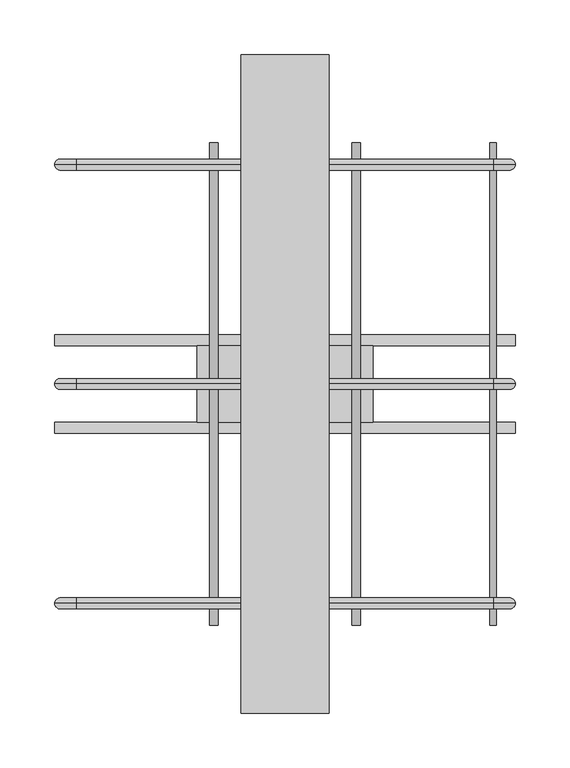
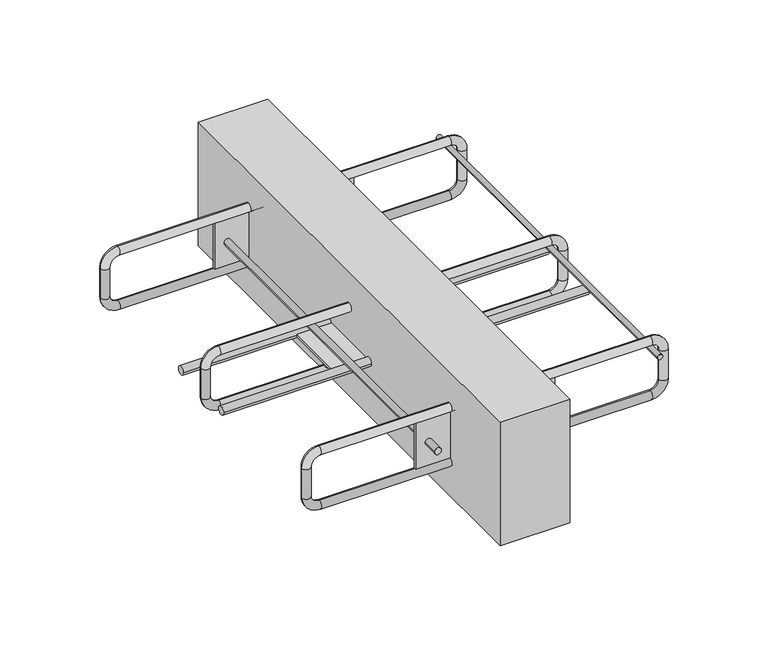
"""IFC4 building model written with IfcOpenShell, lengths in millimetres: fastener geometry, ACINOXplus_Typenreihe_UL-OL : OL+ S1."""

from ifc_helpers import new_model, si_unit, point, frame, frame_2d, origin, place, context, project, spatial, polyline, circle_curve, ellipse_curve, trimmed, segment, composite_curve, outline, extrude, source, transform, mapped, element, save
from ifc_brep_helpers import cylinder_surface, revolved_surface, advanced_brep


def fastener_a5130629(model_context):
    return source(origin(), model_context, "Body", "SolidModel", [
        extrude(outline(composite_curve([segment(trimmed(circle_curve(frame_2d((-50.0, 190.0)), 3.0), [point((-50.0, 193.0))], [point((-50.0, 187.0))], False, "CARTESIAN"), True, "CONTINUOUS"), segment(trimmed(circle_curve(frame_2d((-50.0, 190.0)), 3.0), [point((-50.0, 187.0))], [point((-50.0, 193.0))], False, "CARTESIAN"), True, "CONTINUOUS")], self_intersect=False)), frame((0.0, -220.0, 0.0), z_axis=(0.0, 1.0, 0.0), x_axis=(0.0, 0.0, 1.0)), (0.0, 0.0, 1.0), 440.0),
        extrude(outline(polyline([(40.0, 300.0), (40.0, -300.0), (-40.0, -300.0), (-40.0, 300.0), (40.0, 300.0)])), frame((0.0, 0.0, -150.0), z_axis=(0.0, 0.0, 1.0), x_axis=(1.0, 0.0, 0.0)), (0.0, 0.0, 1.0), 150.0),
        extrude(outline(composite_curve([segment(trimmed(circle_curve(frame_2d((-40.0, -84.0)), 5.0), [point((-45.0, -84.0))], [point((-35.0, -84.0))], False, "CARTESIAN"), True, "CONTINUOUS"), segment(trimmed(circle_curve(frame_2d((-40.0, -84.0)), 5.0), [point((-35.0, -84.0))], [point((-45.0, -84.0))], False, "CARTESIAN"), True, "CONTINUOUS")], self_intersect=False)), frame((-210.0, 0.0, 0.0), z_axis=(1.0, 0.0, 0.0), x_axis=(0.0, 1.0, 0.0)), (0.0, 0.0, 1.0), 420.0),
        extrude(outline(composite_curve([segment(trimmed(circle_curve(frame_2d((40.0, -84.0)), 5.0), [point((35.0, -84.0))], [point((45.0, -84.0))], False, "CARTESIAN"), True, "CONTINUOUS"), segment(trimmed(circle_curve(frame_2d((40.0, -84.0)), 5.0), [point((45.0, -84.0))], [point((35.0, -84.0))], False, "CARTESIAN"), True, "CONTINUOUS")], self_intersect=False)), frame((-210.0, 0.0, 0.0), z_axis=(1.0, 0.0, 0.0), x_axis=(0.0, 1.0, 0.0)), (0.0, 0.0, 1.0), 420.0),
        extrude(outline(composite_curve([segment(trimmed(circle_curve(frame_2d((-65.0, 0.0)), 4.0), [point((-69.0, 0.0))], [point((-61.0, 0.0))], False, "CARTESIAN"), True, "CONTINUOUS"), segment(trimmed(circle_curve(frame_2d((-65.0, 0.0)), 4.0), [point((-61.0, 0.0))], [point((-69.0, 0.0))], False, "CARTESIAN"), True, "CONTINUOUS")], self_intersect=False)), frame((0.0, 0.0, -112.0), z_axis=(0.0, 0.0, 1.0), x_axis=(1.0, 0.0, 0.0)), (0.0, 0.0, 1.0), 26.5),
        extrude(outline(composite_curve([segment(trimmed(circle_curve(frame_2d((65.0, 0.0)), 4.0), [point((61.0, 0.0))], [point((69.0, 0.0))], False, "CARTESIAN"), True, "CONTINUOUS"), segment(trimmed(circle_curve(frame_2d((65.0, 0.0)), 4.0), [point((69.0, 0.0))], [point((61.0, 0.0))], False, "CARTESIAN"), True, "CONTINUOUS")], self_intersect=False)), frame((0.0, 0.0, -112.0), z_axis=(0.0, 0.0, 1.0), x_axis=(1.0, 0.0, 0.0)), (0.0, 0.0, 1.0), 26.5),
        extrude(outline(polyline([(80.0, 35.0), (80.0, -35.0), (-80.0, -35.0), (-80.0, 35.0), (80.0, 35.0)])), frame((0.0, 0.0, -85.5), z_axis=(0.0, 0.0, 1.0), x_axis=(1.0, 0.0, 0.0)), (0.0, 0.0, 1.0), 3.0),
        extrude(outline(composite_curve([segment(trimmed(circle_curve(frame_2d((-75.0, -65.0)), 4.0), [point((-75.0, -61.0))], [point((-75.0, -69.0))], False, "CARTESIAN"), True, "CONTINUOUS"), segment(trimmed(circle_curve(frame_2d((-75.0, -65.0)), 4.0), [point((-75.0, -69.0))], [point((-75.0, -61.0))], False, "CARTESIAN"), True, "CONTINUOUS")], self_intersect=False)), frame((0.0, -220.0, 0.0), z_axis=(0.0, 1.0, 0.0), x_axis=(0.0, 0.0, 1.0)), (0.0, 0.0, 1.0), 440.0),
        extrude(outline(composite_curve([segment(trimmed(circle_curve(frame_2d((-75.0, 65.0)), 4.0), [point((-75.0, 69.0))], [point((-75.0, 61.0))], False, "CARTESIAN"), True, "CONTINUOUS"), segment(trimmed(circle_curve(frame_2d((-75.0, 65.0)), 4.0), [point((-75.0, 61.0))], [point((-75.0, 69.0))], False, "CARTESIAN"), True, "CONTINUOUS")], self_intersect=False)), frame((0.0, -220.0, 0.0), z_axis=(0.0, 1.0, 0.0), x_axis=(0.0, 0.0, 1.0)), (0.0, 0.0, 1.0), 440.0),
        extrude(outline(polyline([(80.0, -198.5), (80.0, -201.5), (-80.0, -201.5), (-80.0, -198.5), (80.0, -198.5)])), frame((0.0, 0.0, -103.0), z_axis=(0.0, 0.0, 1.0), x_axis=(1.0, 0.0, 0.0)), (0.0, 0.0, 1.0), 56.0),
        extrude(outline(polyline([(80.0, 201.5), (80.0, 198.5), (-80.0, 198.5), (-80.0, 201.5), (80.0, 201.5)])), frame((0.0, 0.0, -103.0), z_axis=(0.0, 0.0, 1.0), x_axis=(1.0, 0.0, 0.0)), (0.0, 0.0, 1.0), 56.0),
        advanced_brep(
        [(190.0, 0.0, -47.0), (190.0, 0.0, -37.0), (-190.0, 0.0, -37.0), (-190.0, 0.0, -47.0), (-200.0, 0.0, -57.0), (-210.0, 0.0, -57.0), (-210.0, 0.0, -93.0), (-200.0, 0.0, -93.0), (-190.0, 0.0, -103.0), (-190.0, 0.0, -113.0), (190.0, 0.0, -113.0), (190.0, 0.0, -103.0), (200.0, 0.0, -93.0), (210.0, 0.0, -93.0), (210.0, 0.0, -57.0), (200.0, 0.0, -57.0)],
        [
            (0, 1, circle_curve(frame((190.0, 0.0, -42.0), z_axis=(-1.0, 0.0, 0.0), x_axis=(0.0, 0.0, -1.0)), 5.0)),
            (1, 2),
            (2, 3, circle_curve(frame((-190.0, 0.0, -42.0), z_axis=(1.0, 0.0, 0.0), x_axis=(0.0, 0.0, -1.0)), 5.0)),
            (3, 0),
            (1, 0, circle_curve(frame((190.0, 0.0, -42.0), z_axis=(-1.0, 0.0, 0.0), x_axis=(0.0, 0.0, -1.0)), 5.0)),
            (3, 2, circle_curve(frame((-190.0, 0.0, -42.0), z_axis=(1.0, 0.0, 0.0), x_axis=(0.0, 0.0, -1.0)), 5.0)),
            (4, 3, circle_curve(frame((-190.0, 0.0, -57.0), z_axis=(0.0, 1.0, 0.0), x_axis=(0.0, 0.0, 1.0)), 10.0)),
            (2, 5, circle_curve(frame((-190.0, 0.0, -57.0), z_axis=(0.0, -1.0, 0.0), x_axis=(0.0, 0.0, 1.0)), 20.0)),
            (5, 4, circle_curve(frame((-205.0, 0.0, -57.0), z_axis=(0.0, 0.0, 1.0), x_axis=(1.0, 0.0, 0.0)), 5.0)),
            (4, 5, circle_curve(frame((-205.0, 0.0, -57.0), z_axis=(0.0, 0.0, 1.0), x_axis=(1.0, 0.0, 0.0)), 5.0)),
            (5, 6),
            (6, 7, circle_curve(frame((-205.0, 0.0, -93.0), z_axis=(0.0, 0.0, 1.0), x_axis=(1.0, 0.0, 0.0)), 5.0)),
            (7, 4),
            (7, 6, circle_curve(frame((-205.0, 0.0, -93.0), z_axis=(0.0, 0.0, 1.0), x_axis=(1.0, 0.0, 0.0)), 5.0)),
            (8, 7, circle_curve(frame((-190.0, 0.0, -93.0), z_axis=(0.0, 1.0, 0.0), x_axis=(-1.0, 0.0, 0.0)), 10.0)),
            (6, 9, circle_curve(frame((-190.0, 0.0, -93.0), z_axis=(0.0, -1.0, 0.0), x_axis=(-1.0, 0.0, 0.0)), 20.0)),
            (9, 8, circle_curve(frame((-190.0, 0.0, -108.0), z_axis=(-1.0, 0.0, 0.0), x_axis=(0.0, 0.0, 1.0)), 5.0)),
            (8, 9, circle_curve(frame((-190.0, 0.0, -108.0), z_axis=(-1.0, 0.0, 0.0), x_axis=(0.0, 0.0, 1.0)), 5.0)),
            (9, 10),
            (10, 11, circle_curve(frame((190.0, 0.0, -108.0), z_axis=(-1.0, 0.0, 0.0), x_axis=(0.0, 0.0, 1.0)), 5.0)),
            (11, 8),
            (11, 10, circle_curve(frame((190.0, 0.0, -108.0), z_axis=(-1.0, 0.0, 0.0), x_axis=(0.0, 0.0, 1.0)), 5.0)),
            (12, 11, circle_curve(frame((190.0, 0.0, -93.0), z_axis=(0.0, 1.0, 0.0), x_axis=(0.0, 0.0, -1.0)), 10.0)),
            (10, 13, circle_curve(frame((190.0, 0.0, -93.0), z_axis=(0.0, -1.0, 0.0), x_axis=(0.0, 0.0, -1.0)), 20.0)),
            (13, 12, circle_curve(frame((205.0, 0.0, -93.0), z_axis=(0.0, 0.0, -1.0), x_axis=(-1.0, 0.0, 0.0)), 5.0)),
            (12, 13, circle_curve(frame((205.0, 0.0, -93.0), z_axis=(0.0, 0.0, -1.0), x_axis=(-1.0, 0.0, 0.0)), 5.0)),
            (13, 14),
            (14, 15, circle_curve(frame((205.0, 0.0, -57.0), z_axis=(0.0, 0.0, -1.0), x_axis=(-1.0, 0.0, 0.0)), 5.0)),
            (15, 12),
            (15, 14, circle_curve(frame((205.0, 0.0, -57.0), z_axis=(0.0, 0.0, -1.0), x_axis=(-1.0, 0.0, 0.0)), 5.0)),
            (0, 15, circle_curve(frame((190.0, 0.0, -57.0), z_axis=(0.0, 1.0, 0.0), x_axis=(1.0, 0.0, 0.0)), 10.0)),
            (14, 1, circle_curve(frame((190.0, 0.0, -57.0), z_axis=(0.0, -1.0, 0.0), x_axis=(1.0, 0.0, 0.0)), 20.0)),
        ],
        [
            cylinder_surface(frame((190.0, 0.0, -42.0), z_axis=(1.0, 0.0, 0.0), x_axis=(0.0, 0.0, -1.0)), 5.0),
            revolved_surface(trimmed(ellipse_curve(frame((-190.0, 0.0, -42.0), z_axis=(1.0, 0.0, 0.0), x_axis=(0.0, 0.0, -1.0)), 5.0, 5.0), [point((-190.0, 0.0, -37.0))], [point((-190.0, 0.0, -47.0))], True, "CARTESIAN"), (-190.0, 0.0, -57.0), (0.0, -1.0, 0.0)),
            revolved_surface(trimmed(ellipse_curve(frame((-190.0, 0.0, -42.0), z_axis=(1.0, 0.0, 0.0), x_axis=(0.0, 0.0, -1.0)), 5.0, 5.0), [point((-190.0, 0.0, -47.0))], [point((-190.0, 0.0, -37.0))], True, "CARTESIAN"), (-190.0, 0.0, -57.0), (0.0, -1.0, 0.0)),
            cylinder_surface(frame((-205.0, 0.0, -57.0), z_axis=(0.0, 0.0, 1.0), x_axis=(1.0, 0.0, 0.0)), 5.0),
            revolved_surface(trimmed(ellipse_curve(frame((-205.0, 0.0, -93.0), z_axis=(0.0, 0.0, 1.0), x_axis=(1.0, 0.0, 0.0)), 5.0, 5.0), [point((-210.0, 0.0, -93.0))], [point((-200.0, 0.0, -93.0))], True, "CARTESIAN"), (-190.0, 0.0, -93.0), (0.0, -1.0, 0.0)),
            revolved_surface(trimmed(ellipse_curve(frame((-205.0, 0.0, -93.0), z_axis=(0.0, 0.0, 1.0), x_axis=(1.0, 0.0, 0.0)), 5.0, 5.0), [point((-200.0, 0.0, -93.0))], [point((-210.0, 0.0, -93.0))], True, "CARTESIAN"), (-190.0, 0.0, -93.0), (0.0, -1.0, 0.0)),
            cylinder_surface(frame((-190.0, 0.0, -108.0), z_axis=(-1.0, 0.0, 0.0), x_axis=(0.0, 0.0, 1.0)), 5.0),
            revolved_surface(trimmed(ellipse_curve(frame((190.0, 0.0, -108.0), z_axis=(-1.0, 0.0, 0.0), x_axis=(0.0, 0.0, 1.0)), 5.0, 5.0), [point((190.0, 0.0, -113.0))], [point((190.0, 0.0, -103.0))], True, "CARTESIAN"), (190.0, 0.0, -93.0), (0.0, -1.0, 0.0)),
            revolved_surface(trimmed(ellipse_curve(frame((190.0, 0.0, -108.0), z_axis=(-1.0, 0.0, 0.0), x_axis=(0.0, 0.0, 1.0)), 5.0, 5.0), [point((190.0, 0.0, -103.0))], [point((190.0, 0.0, -113.0))], True, "CARTESIAN"), (190.0, 0.0, -93.0), (0.0, -1.0, 0.0)),
            cylinder_surface(frame((205.0, 0.0, -93.0), z_axis=(0.0, 0.0, -1.0), x_axis=(-1.0, 0.0, 0.0)), 5.0),
            revolved_surface(trimmed(ellipse_curve(frame((205.0, 0.0, -57.0), z_axis=(0.0, 0.0, -1.0), x_axis=(-1.0, 0.0, 0.0)), 5.0, 5.0), [point((210.0, 0.0, -57.0))], [point((200.0, 0.0, -57.0))], True, "CARTESIAN"), (190.0, 0.0, -57.0), (0.0, -1.0, 0.0)),
            revolved_surface(trimmed(ellipse_curve(frame((205.0, 0.0, -57.0), z_axis=(0.0, 0.0, -1.0), x_axis=(-1.0, 0.0, 0.0)), 5.0, 5.0), [point((200.0, 0.0, -57.0))], [point((210.0, 0.0, -57.0))], True, "CARTESIAN"), (190.0, 0.0, -57.0), (0.0, -1.0, 0.0)),
        ],
        [
            (0, [[1, 2, 3, 4]]),
            (0, [[5, -4, 6, -2]]),
            (1, [[7, -3, 8, 9]]),
            (2, [[-8, -6, -7, 10]]),
            (3, [[-9, 11, 12, 13]]),
            (3, [[-10, -13, 14, -11]]),
            (4, [[15, -12, 16, 17]]),
            (5, [[-16, -14, -15, 18]]),
            (6, [[-17, 19, 20, 21]]),
            (6, [[-18, -21, 22, -19]]),
            (7, [[23, -20, 24, 25]]),
            (8, [[-24, -22, -23, 26]]),
            (9, [[-25, 27, 28, 29]]),
            (9, [[-26, -29, 30, -27]]),
            (10, [[31, -28, 32, -1]]),
            (11, [[-32, -30, -31, -5]]),
        ],
    ),
        advanced_brep(
        [(190.0, 200.0, -47.0), (190.0, 200.0, -37.0), (-190.0, 200.0, -37.0), (-190.0, 200.0, -47.0), (-200.0, 200.0, -57.0), (-210.0, 200.0, -57.0), (-210.0, 200.0, -93.0), (-200.0, 200.0, -93.0), (-190.0, 200.0, -103.0), (-190.0, 200.0, -113.0), (190.0, 200.0, -113.0), (190.0, 200.0, -103.0), (200.0, 200.0, -93.0), (210.0, 200.0, -93.0), (210.0, 200.0, -57.0), (200.0, 200.0, -57.0)],
        [
            (0, 1, circle_curve(frame((190.0, 200.0, -42.0), z_axis=(-1.0, 0.0, 0.0), x_axis=(0.0, 0.0, -1.0)), 5.0)),
            (1, 2),
            (2, 3, circle_curve(frame((-190.0, 200.0, -42.0), z_axis=(1.0, 0.0, 0.0), x_axis=(0.0, 0.0, -1.0)), 5.0)),
            (3, 0),
            (1, 0, circle_curve(frame((190.0, 200.0, -42.0), z_axis=(-1.0, 0.0, 0.0), x_axis=(0.0, 0.0, -1.0)), 5.0)),
            (3, 2, circle_curve(frame((-190.0, 200.0, -42.0), z_axis=(1.0, 0.0, 0.0), x_axis=(0.0, 0.0, -1.0)), 5.0)),
            (4, 3, circle_curve(frame((-190.0, 200.0, -57.0), z_axis=(0.0, 1.0, 0.0), x_axis=(0.0, 0.0, 1.0)), 10.0)),
            (2, 5, circle_curve(frame((-190.0, 200.0, -57.0), z_axis=(0.0, -1.0, 0.0), x_axis=(0.0, 0.0, 1.0)), 20.0)),
            (5, 4, circle_curve(frame((-205.0, 200.0, -57.0), z_axis=(0.0, 0.0, 1.0), x_axis=(1.0, 0.0, 0.0)), 5.0)),
            (4, 5, circle_curve(frame((-205.0, 200.0, -57.0), z_axis=(0.0, 0.0, 1.0), x_axis=(1.0, 0.0, 0.0)), 5.0)),
            (5, 6),
            (6, 7, circle_curve(frame((-205.0, 200.0, -93.0), z_axis=(0.0, 0.0, 1.0), x_axis=(1.0, 0.0, 0.0)), 5.0)),
            (7, 4),
            (7, 6, circle_curve(frame((-205.0, 200.0, -93.0), z_axis=(0.0, 0.0, 1.0), x_axis=(1.0, 0.0, 0.0)), 5.0)),
            (8, 7, circle_curve(frame((-190.0, 200.0, -93.0), z_axis=(0.0, 1.0, 0.0), x_axis=(-1.0, 0.0, 0.0)), 10.0)),
            (6, 9, circle_curve(frame((-190.0, 200.0, -93.0), z_axis=(0.0, -1.0, 0.0), x_axis=(-1.0, 0.0, 0.0)), 20.0)),
            (9, 8, circle_curve(frame((-190.0, 200.0, -108.0), z_axis=(-1.0, 0.0, 0.0), x_axis=(0.0, 0.0, 1.0)), 5.0)),
            (8, 9, circle_curve(frame((-190.0, 200.0, -108.0), z_axis=(-1.0, 0.0, 0.0), x_axis=(0.0, 0.0, 1.0)), 5.0)),
            (9, 10),
            (10, 11, circle_curve(frame((190.0, 200.0, -108.0), z_axis=(-1.0, 0.0, 0.0), x_axis=(0.0, 0.0, 1.0)), 5.0)),
            (11, 8),
            (11, 10, circle_curve(frame((190.0, 200.0, -108.0), z_axis=(-1.0, 0.0, 0.0), x_axis=(0.0, 0.0, 1.0)), 5.0)),
            (12, 11, circle_curve(frame((190.0, 200.0, -93.0), z_axis=(0.0, 1.0, 0.0), x_axis=(0.0, 0.0, -1.0)), 10.0)),
            (10, 13, circle_curve(frame((190.0, 200.0, -93.0), z_axis=(0.0, -1.0, 0.0), x_axis=(0.0, 0.0, -1.0)), 20.0)),
            (13, 12, circle_curve(frame((205.0, 200.0, -93.0), z_axis=(0.0, 0.0, -1.0), x_axis=(-1.0, 0.0, 0.0)), 5.0)),
            (12, 13, circle_curve(frame((205.0, 200.0, -93.0), z_axis=(0.0, 0.0, -1.0), x_axis=(-1.0, 0.0, 0.0)), 5.0)),
            (13, 14),
            (14, 15, circle_curve(frame((205.0, 200.0, -57.0), z_axis=(0.0, 0.0, -1.0), x_axis=(-1.0, 0.0, 0.0)), 5.0)),
            (15, 12),
            (15, 14, circle_curve(frame((205.0, 200.0, -57.0), z_axis=(0.0, 0.0, -1.0), x_axis=(-1.0, 0.0, 0.0)), 5.0)),
            (0, 15, circle_curve(frame((190.0, 200.0, -57.0), z_axis=(0.0, 1.0, 0.0), x_axis=(1.0, 0.0, 0.0)), 10.0)),
            (14, 1, circle_curve(frame((190.0, 200.0, -57.0), z_axis=(0.0, -1.0, 0.0), x_axis=(1.0, 0.0, 0.0)), 20.0)),
        ],
        [
            cylinder_surface(frame((190.0, 200.0, -42.0), z_axis=(1.0, 0.0, 0.0), x_axis=(0.0, 0.0, -1.0)), 5.0),
            revolved_surface(trimmed(ellipse_curve(frame((-190.0, 200.0, -42.0), z_axis=(1.0, 0.0, 0.0), x_axis=(0.0, 0.0, -1.0)), 5.0, 5.0), [point((-190.0, 200.0, -37.0))], [point((-190.0, 200.0, -47.0))], True, "CARTESIAN"), (-190.0, 200.0, -57.0), (0.0, -1.0, 0.0)),
            revolved_surface(trimmed(ellipse_curve(frame((-190.0, 200.0, -42.0), z_axis=(1.0, 0.0, 0.0), x_axis=(0.0, 0.0, -1.0)), 5.0, 5.0), [point((-190.0, 200.0, -47.0))], [point((-190.0, 200.0, -37.0))], True, "CARTESIAN"), (-190.0, 200.0, -57.0), (0.0, -1.0, 0.0)),
            cylinder_surface(frame((-205.0, 200.0, -57.0), z_axis=(0.0, 0.0, 1.0), x_axis=(1.0, 0.0, 0.0)), 5.0),
            revolved_surface(trimmed(ellipse_curve(frame((-205.0, 200.0, -93.0), z_axis=(0.0, 0.0, 1.0), x_axis=(1.0, 0.0, 0.0)), 5.0, 5.0), [point((-210.0, 200.0, -93.0))], [point((-200.0, 200.0, -93.0))], True, "CARTESIAN"), (-190.0, 200.0, -93.0), (0.0, -1.0, 0.0)),
            revolved_surface(trimmed(ellipse_curve(frame((-205.0, 200.0, -93.0), z_axis=(0.0, 0.0, 1.0), x_axis=(1.0, 0.0, 0.0)), 5.0, 5.0), [point((-200.0, 200.0, -93.0))], [point((-210.0, 200.0, -93.0))], True, "CARTESIAN"), (-190.0, 200.0, -93.0), (0.0, -1.0, 0.0)),
            cylinder_surface(frame((-190.0, 200.0, -108.0), z_axis=(-1.0, 0.0, 0.0), x_axis=(0.0, 0.0, 1.0)), 5.0),
            revolved_surface(trimmed(ellipse_curve(frame((190.0, 200.0, -108.0), z_axis=(-1.0, 0.0, 0.0), x_axis=(0.0, 0.0, 1.0)), 5.0, 5.0), [point((190.0, 200.0, -113.0))], [point((190.0, 200.0, -103.0))], True, "CARTESIAN"), (190.0, 200.0, -93.0), (0.0, -1.0, 0.0)),
            revolved_surface(trimmed(ellipse_curve(frame((190.0, 200.0, -108.0), z_axis=(-1.0, 0.0, 0.0), x_axis=(0.0, 0.0, 1.0)), 5.0, 5.0), [point((190.0, 200.0, -103.0))], [point((190.0, 200.0, -113.0))], True, "CARTESIAN"), (190.0, 200.0, -93.0), (0.0, -1.0, 0.0)),
            cylinder_surface(frame((205.0, 200.0, -93.0), z_axis=(0.0, 0.0, -1.0), x_axis=(-1.0, 0.0, 0.0)), 5.0),
            revolved_surface(trimmed(ellipse_curve(frame((205.0, 200.0, -57.0), z_axis=(0.0, 0.0, -1.0), x_axis=(-1.0, 0.0, 0.0)), 5.0, 5.0), [point((210.0, 200.0, -57.0))], [point((200.0, 200.0, -57.0))], True, "CARTESIAN"), (190.0, 200.0, -57.0), (0.0, -1.0, 0.0)),
            revolved_surface(trimmed(ellipse_curve(frame((205.0, 200.0, -57.0), z_axis=(0.0, 0.0, -1.0), x_axis=(-1.0, 0.0, 0.0)), 5.0, 5.0), [point((200.0, 200.0, -57.0))], [point((210.0, 200.0, -57.0))], True, "CARTESIAN"), (190.0, 200.0, -57.0), (0.0, -1.0, 0.0)),
        ],
        [
            (0, [[1, 2, 3, 4]]),
            (0, [[5, -4, 6, -2]]),
            (1, [[7, -3, 8, 9]]),
            (2, [[-8, -6, -7, 10]]),
            (3, [[-9, 11, 12, 13]]),
            (3, [[-10, -13, 14, -11]]),
            (4, [[15, -12, 16, 17]]),
            (5, [[-16, -14, -15, 18]]),
            (6, [[-17, 19, 20, 21]]),
            (6, [[-18, -21, 22, -19]]),
            (7, [[23, -20, 24, 25]]),
            (8, [[-24, -22, -23, 26]]),
            (9, [[-25, 27, 28, 29]]),
            (9, [[-26, -29, 30, -27]]),
            (10, [[31, -28, 32, -1]]),
            (11, [[-32, -30, -31, -5]]),
        ],
    ),
        advanced_brep(
        [(190.0, -200.0, -47.0), (190.0, -200.0, -37.0), (-190.0, -200.0, -37.0), (-190.0, -200.0, -47.0), (-200.0, -200.0, -57.0), (-210.0, -200.0, -57.0), (-210.0, -200.0, -93.0), (-200.0, -200.0, -93.0), (-190.0, -200.0, -103.0), (-190.0, -200.0, -113.0), (190.0, -200.0, -113.0), (190.0, -200.0, -103.0), (200.0, -200.0, -93.0), (210.0, -200.0, -93.0), (210.0, -200.0, -57.0), (200.0, -200.0, -57.0)],
        [
            (0, 1, circle_curve(frame((190.0, -200.0, -42.0), z_axis=(-1.0, 0.0, 0.0), x_axis=(0.0, 0.0, -1.0)), 5.0)),
            (1, 2),
            (2, 3, circle_curve(frame((-190.0, -200.0, -42.0), z_axis=(1.0, 0.0, 0.0), x_axis=(0.0, 0.0, -1.0)), 5.0)),
            (3, 0),
            (1, 0, circle_curve(frame((190.0, -200.0, -42.0), z_axis=(-1.0, 0.0, 0.0), x_axis=(0.0, 0.0, -1.0)), 5.0)),
            (3, 2, circle_curve(frame((-190.0, -200.0, -42.0), z_axis=(1.0, 0.0, 0.0), x_axis=(0.0, 0.0, -1.0)), 5.0)),
            (4, 3, circle_curve(frame((-190.0, -200.0, -57.0), z_axis=(0.0, 1.0, 0.0), x_axis=(0.0, 0.0, 1.0)), 10.0)),
            (2, 5, circle_curve(frame((-190.0, -200.0, -57.0), z_axis=(0.0, -1.0, 0.0), x_axis=(0.0, 0.0, 1.0)), 20.0)),
            (5, 4, circle_curve(frame((-205.0, -200.0, -57.0), z_axis=(0.0, 0.0, 1.0), x_axis=(1.0, 0.0, 0.0)), 5.0)),
            (4, 5, circle_curve(frame((-205.0, -200.0, -57.0), z_axis=(0.0, 0.0, 1.0), x_axis=(1.0, 0.0, 0.0)), 5.0)),
            (5, 6),
            (6, 7, circle_curve(frame((-205.0, -200.0, -93.0), z_axis=(0.0, 0.0, 1.0), x_axis=(1.0, 0.0, 0.0)), 5.0)),
            (7, 4),
            (7, 6, circle_curve(frame((-205.0, -200.0, -93.0), z_axis=(0.0, 0.0, 1.0), x_axis=(1.0, 0.0, 0.0)), 5.0)),
            (8, 7, circle_curve(frame((-190.0, -200.0, -93.0), z_axis=(0.0, 1.0, 0.0), x_axis=(-1.0, 0.0, 0.0)), 10.0)),
            (6, 9, circle_curve(frame((-190.0, -200.0, -93.0), z_axis=(0.0, -1.0, 0.0), x_axis=(-1.0, 0.0, 0.0)), 20.0)),
            (9, 8, circle_curve(frame((-190.0, -200.0, -108.0), z_axis=(-1.0, 0.0, 0.0), x_axis=(0.0, 0.0, 1.0)), 5.0)),
            (8, 9, circle_curve(frame((-190.0, -200.0, -108.0), z_axis=(-1.0, 0.0, 0.0), x_axis=(0.0, 0.0, 1.0)), 5.0)),
            (9, 10),
            (10, 11, circle_curve(frame((190.0, -200.0, -108.0), z_axis=(-1.0, 0.0, 0.0), x_axis=(0.0, 0.0, 1.0)), 5.0)),
            (11, 8),
            (11, 10, circle_curve(frame((190.0, -200.0, -108.0), z_axis=(-1.0, 0.0, 0.0), x_axis=(0.0, 0.0, 1.0)), 5.0)),
            (12, 11, circle_curve(frame((190.0, -200.0, -93.0), z_axis=(0.0, 1.0, 0.0), x_axis=(0.0, 0.0, -1.0)), 10.0)),
            (10, 13, circle_curve(frame((190.0, -200.0, -93.0), z_axis=(0.0, -1.0, 0.0), x_axis=(0.0, 0.0, -1.0)), 20.0)),
            (13, 12, circle_curve(frame((205.0, -200.0, -93.0), z_axis=(0.0, 0.0, -1.0), x_axis=(-1.0, 0.0, 0.0)), 5.0)),
            (12, 13, circle_curve(frame((205.0, -200.0, -93.0), z_axis=(0.0, 0.0, -1.0), x_axis=(-1.0, 0.0, 0.0)), 5.0)),
            (13, 14),
            (14, 15, circle_curve(frame((205.0, -200.0, -57.0), z_axis=(0.0, 0.0, -1.0), x_axis=(-1.0, 0.0, 0.0)), 5.0)),
            (15, 12),
            (15, 14, circle_curve(frame((205.0, -200.0, -57.0), z_axis=(0.0, 0.0, -1.0), x_axis=(-1.0, 0.0, 0.0)), 5.0)),
            (0, 15, circle_curve(frame((190.0, -200.0, -57.0), z_axis=(0.0, 1.0, 0.0), x_axis=(1.0, 0.0, 0.0)), 10.0)),
            (14, 1, circle_curve(frame((190.0, -200.0, -57.0), z_axis=(0.0, -1.0, 0.0), x_axis=(1.0, 0.0, 0.0)), 20.0)),
        ],
        [
            cylinder_surface(frame((190.0, -200.0, -42.0), z_axis=(1.0, 0.0, 0.0), x_axis=(0.0, 0.0, -1.0)), 5.0),
            revolved_surface(trimmed(ellipse_curve(frame((-190.0, -200.0, -42.0), z_axis=(1.0, 0.0, 0.0), x_axis=(0.0, 0.0, -1.0)), 5.0, 5.0), [point((-190.0, -200.0, -37.0))], [point((-190.0, -200.0, -47.0))], True, "CARTESIAN"), (-190.0, -200.0, -57.0), (0.0, -1.0, 0.0)),
            revolved_surface(trimmed(ellipse_curve(frame((-190.0, -200.0, -42.0), z_axis=(1.0, 0.0, 0.0), x_axis=(0.0, 0.0, -1.0)), 5.0, 5.0), [point((-190.0, -200.0, -47.0))], [point((-190.0, -200.0, -37.0))], True, "CARTESIAN"), (-190.0, -200.0, -57.0), (0.0, -1.0, 0.0)),
            cylinder_surface(frame((-205.0, -200.0, -57.0), z_axis=(0.0, 0.0, 1.0), x_axis=(1.0, 0.0, 0.0)), 5.0),
            revolved_surface(trimmed(ellipse_curve(frame((-205.0, -200.0, -93.0), z_axis=(0.0, 0.0, 1.0), x_axis=(1.0, 0.0, 0.0)), 5.0, 5.0), [point((-210.0, -200.0, -93.0))], [point((-200.0, -200.0, -93.0))], True, "CARTESIAN"), (-190.0, -200.0, -93.0), (0.0, -1.0, 0.0)),
            revolved_surface(trimmed(ellipse_curve(frame((-205.0, -200.0, -93.0), z_axis=(0.0, 0.0, 1.0), x_axis=(1.0, 0.0, 0.0)), 5.0, 5.0), [point((-200.0, -200.0, -93.0))], [point((-210.0, -200.0, -93.0))], True, "CARTESIAN"), (-190.0, -200.0, -93.0), (0.0, -1.0, 0.0)),
            cylinder_surface(frame((-190.0, -200.0, -108.0), z_axis=(-1.0, 0.0, 0.0), x_axis=(0.0, 0.0, 1.0)), 5.0),
            revolved_surface(trimmed(ellipse_curve(frame((190.0, -200.0, -108.0), z_axis=(-1.0, 0.0, 0.0), x_axis=(0.0, 0.0, 1.0)), 5.0, 5.0), [point((190.0, -200.0, -113.0))], [point((190.0, -200.0, -103.0))], True, "CARTESIAN"), (190.0, -200.0, -93.0), (0.0, -1.0, 0.0)),
            revolved_surface(trimmed(ellipse_curve(frame((190.0, -200.0, -108.0), z_axis=(-1.0, 0.0, 0.0), x_axis=(0.0, 0.0, 1.0)), 5.0, 5.0), [point((190.0, -200.0, -103.0))], [point((190.0, -200.0, -113.0))], True, "CARTESIAN"), (190.0, -200.0, -93.0), (0.0, -1.0, 0.0)),
            cylinder_surface(frame((205.0, -200.0, -93.0), z_axis=(0.0, 0.0, -1.0), x_axis=(-1.0, 0.0, 0.0)), 5.0),
            revolved_surface(trimmed(ellipse_curve(frame((205.0, -200.0, -57.0), z_axis=(0.0, 0.0, -1.0), x_axis=(-1.0, 0.0, 0.0)), 5.0, 5.0), [point((210.0, -200.0, -57.0))], [point((200.0, -200.0, -57.0))], True, "CARTESIAN"), (190.0, -200.0, -57.0), (0.0, -1.0, 0.0)),
            revolved_surface(trimmed(ellipse_curve(frame((205.0, -200.0, -57.0), z_axis=(0.0, 0.0, -1.0), x_axis=(-1.0, 0.0, 0.0)), 5.0, 5.0), [point((200.0, -200.0, -57.0))], [point((210.0, -200.0, -57.0))], True, "CARTESIAN"), (190.0, -200.0, -57.0), (0.0, -1.0, 0.0)),
        ],
        [
            (0, [[1, 2, 3, 4]]),
            (0, [[5, -4, 6, -2]]),
            (1, [[7, -3, 8, 9]]),
            (2, [[-8, -6, -7, 10]]),
            (3, [[-9, 11, 12, 13]]),
            (3, [[-10, -13, 14, -11]]),
            (4, [[15, -12, 16, 17]]),
            (5, [[-16, -14, -15, 18]]),
            (6, [[-17, 19, 20, 21]]),
            (6, [[-18, -21, 22, -19]]),
            (7, [[23, -20, 24, 25]]),
            (8, [[-24, -22, -23, 26]]),
            (9, [[-25, 27, 28, 29]]),
            (9, [[-26, -29, 30, -27]]),
            (10, [[31, -28, 32, -1]]),
            (11, [[-32, -30, -31, -5]]),
        ],
    ),
    ])


if __name__ == "__main__":
    model = new_model("IFC4")
    model_context = context("Model", 3, world=origin())
    ifc_project = project(units=[si_unit("LENGTHUNIT", "METRE", prefix="MILLI")], contexts=[model_context])
    site = spatial("IfcSite", under=ifc_project)
    building = spatial("IfcBuilding", under=site)
    placement = place(None, origin())
    fastener_shape = fastener_a5130629(model_context)
    element("IfcFastener", 1, ObjectType="ACINOXplus_Typenreihe_UL-OL : OL+ S1", at=placement, inside=building, context=model_context, shape_type="MappedRepresentation", body=[
        mapped(fastener_shape, transform((0.0, 0.0, 0.0), x_axis=(1.0, 0.0, 0.0), y_axis=(0.0, 1.0, 0.0), z_axis=(0.0, 0.0, 1.0))),
    ])
    save(model, "model.ifc")
